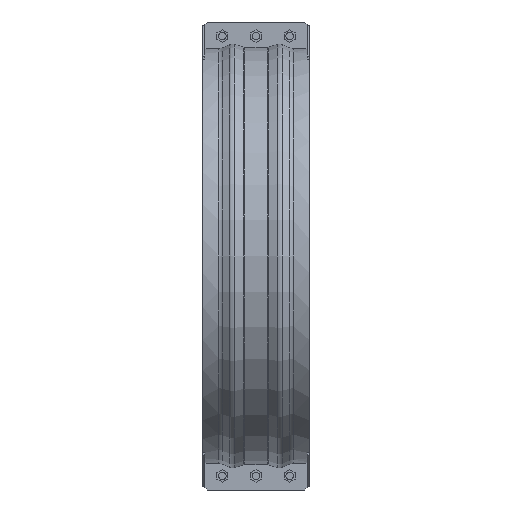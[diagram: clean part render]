
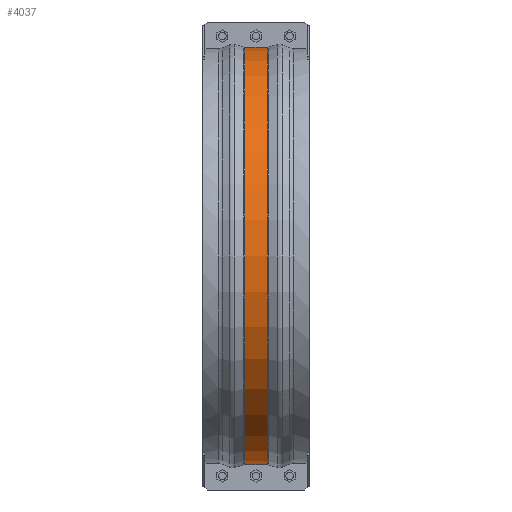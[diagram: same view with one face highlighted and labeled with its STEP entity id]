
A CAD part, front view. The second image highlights one B-rep face of the part: STEP entity #4037.
In plain terms, the highlighted cylindrical face has radius 622.602 mm (diameter 1245.2 mm), a partial arc.
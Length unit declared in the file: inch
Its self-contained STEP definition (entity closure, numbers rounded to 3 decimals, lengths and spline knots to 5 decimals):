
#368=FACE_OUTER_BOUND('',#593,.T.);
#593=EDGE_LOOP('',(#3057,#3058,#3059,#3060));
#910=LINE('',#6241,#1299);
#918=LINE('',#6373,#1307);
#1299=VECTOR('',#4992,0.3937);
#1307=VECTOR('',#5052,0.3937);
#1551=CIRCLE('',#4321,24.51189);
#1553=CIRCLE('',#4325,24.51189);
#1812=VERTEX_POINT('',#6233);
#1813=VERTEX_POINT('',#6240);
#1828=VERTEX_POINT('',#6358);
#1830=VERTEX_POINT('',#6371);
#2259=EDGE_CURVE('',#1813,#1812,#910,.T.);
#2284=EDGE_CURVE('',#1828,#1813,#1551,.T.);
#2288=EDGE_CURVE('',#1830,#1812,#1553,.T.);
#2289=EDGE_CURVE('',#1830,#1828,#918,.T.);
#3057=ORIENTED_EDGE('',*,*,#2259,.T.);
#3058=ORIENTED_EDGE('',*,*,#2288,.F.);
#3059=ORIENTED_EDGE('',*,*,#2289,.T.);
#3060=ORIENTED_EDGE('',*,*,#2284,.T.);
#3704=CYLINDRICAL_SURFACE('',#4324,24.51189);
#4037=ADVANCED_FACE('',(#368),#3704,.T.);
#4321=AXIS2_PLACEMENT_3D('',#6359,#5041,#5042);
#4324=AXIS2_PLACEMENT_3D('',#6370,#5048,#5049);
#4325=AXIS2_PLACEMENT_3D('',#6372,#5050,#5051);
#4992=DIRECTION('',(1.,0.,0.));
#5041=DIRECTION('center_axis',(1.,0.,0.));
#5042=DIRECTION('ref_axis',(0.,0.,-1.));
#5048=DIRECTION('center_axis',(1.,0.,0.));
#5049=DIRECTION('ref_axis',(0.,-1.,0.));
#5050=DIRECTION('center_axis',(1.,0.,0.));
#5051=DIRECTION('ref_axis',(0.,0.,-1.));
#5052=DIRECTION('',(-1.,0.,0.));
#6233=CARTESIAN_POINT('',(1.31451,-0.375,-24.50902));
#6240=CARTESIAN_POINT('',(-1.31451,-0.375,-24.50902));
#6241=CARTESIAN_POINT('',(0.,-0.375,-24.50902));
#6358=CARTESIAN_POINT('',(-1.31451,-0.375,24.50902));
#6359=CARTESIAN_POINT('Origin',(-1.31451,0.,
0.));
#6370=CARTESIAN_POINT('Origin',(0.,0.,0.));
#6371=CARTESIAN_POINT('',(1.31451,-0.375,24.50902));
#6372=CARTESIAN_POINT('Origin',(1.31451,0.,0.));
#6373=CARTESIAN_POINT('',(0.,-0.375,24.50902));
